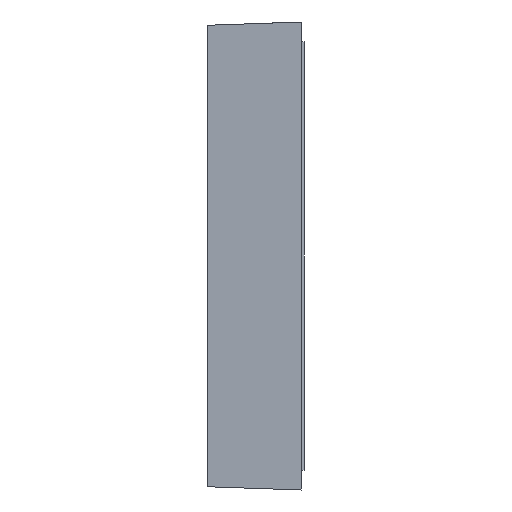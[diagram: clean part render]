
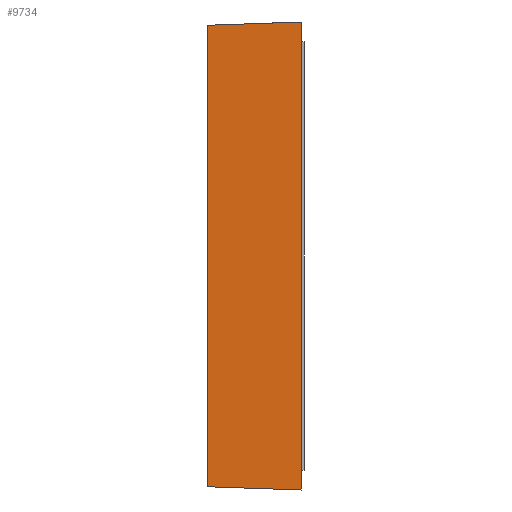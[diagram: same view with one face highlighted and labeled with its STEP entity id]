
A CAD part, left-side view. The second image highlights one B-rep face of the part: STEP entity #9734.
In plain terms, the highlighted planar face has unit normal (-0.999, 0.035, 0).
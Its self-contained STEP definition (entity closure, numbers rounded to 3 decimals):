
#457 = DIRECTION ( 'NONE',  ( -0.999, 0.035, 0. ) ) ;
#630 = VECTOR ( 'NONE', #7670, 1000. ) ;
#995 = EDGE_LOOP ( 'NONE', ( #3968, #3258, #10651, #2802 ) ) ;
#1208 = LINE ( 'NONE', #10873, #7415 ) ;
#1331 = DIRECTION ( 'NONE',  ( 0., 0., 1. ) ) ;
#1370 = LINE ( 'NONE', #4036, #11929 ) ;
#2008 = LINE ( 'NONE', #6715, #630 ) ;
#2190 = PLANE ( 'NONE',  #11585 ) ;
#2802 = ORIENTED_EDGE ( 'NONE', *, *, #10514, .T. ) ;
#3258 = ORIENTED_EDGE ( 'NONE', *, *, #4524, .F. ) ;
#3332 = EDGE_CURVE ( 'NONE', #7564, #11024, #7242, .T. ) ;
#3598 = CARTESIAN_POINT ( 'NONE',  ( -39.441, 16., -39.441 ) ) ;
#3808 = CARTESIAN_POINT ( 'NONE',  ( -39.441, 16., 39.441 ) ) ;
#3968 = ORIENTED_EDGE ( 'NONE', *, *, #3332, .T. ) ;
#4036 = CARTESIAN_POINT ( 'NONE',  ( -39.441, 16., 40. ) ) ;
#4331 = DIRECTION ( 'NONE',  ( -0.035, -0.999, 0. ) ) ;
#4524 = EDGE_CURVE ( 'NONE', #5911, #11024, #1208, .T. ) ;
#5233 = CARTESIAN_POINT ( 'NONE',  ( -40., 0., 40. ) ) ;
#5911 = VERTEX_POINT ( 'NONE', #3808 ) ;
#6488 = CARTESIAN_POINT ( 'NONE',  ( -40., 0., -40. ) ) ;
#6715 = CARTESIAN_POINT ( 'NONE',  ( -39.903, 2.787, -39.903 ) ) ;
#6803 = EDGE_CURVE ( 'NONE', #7772, #5911, #1370, .T. ) ;
#7242 = LINE ( 'NONE', #12078, #8443 ) ;
#7415 = VECTOR ( 'NONE', #9988, 1000. ) ;
#7564 = VERTEX_POINT ( 'NONE', #6488 ) ;
#7670 = DIRECTION ( 'NONE',  ( -0.035, -0.999, -0.035 ) ) ;
#7772 = VERTEX_POINT ( 'NONE', #3598 ) ;
#8443 = VECTOR ( 'NONE', #1331, 1000. ) ;
#9182 = FACE_OUTER_BOUND ( 'NONE', #995, .T. ) ;
#9734 = ADVANCED_FACE ( 'NONE', ( #9182 ), #2190, .T. ) ;
#9893 = DIRECTION ( 'NONE',  ( 0., 0., 1. ) ) ;
#9988 = DIRECTION ( 'NONE',  ( -0.035, -0.999, 0.035 ) ) ;
#10514 = EDGE_CURVE ( 'NONE', #7772, #7564, #2008, .T. ) ;
#10651 = ORIENTED_EDGE ( 'NONE', *, *, #6803, .F. ) ;
#10873 = CARTESIAN_POINT ( 'NONE',  ( -39.903, 2.787, 39.903 ) ) ;
#11024 = VERTEX_POINT ( 'NONE', #11195 ) ;
#11195 = CARTESIAN_POINT ( 'NONE',  ( -40., 0., 40. ) ) ;
#11585 = AXIS2_PLACEMENT_3D ( 'NONE', #5233, #457, #4331 ) ;
#11929 = VECTOR ( 'NONE', #9893, 1000. ) ;
#12078 = CARTESIAN_POINT ( 'NONE',  ( -40., 0., 40. ) ) ;
